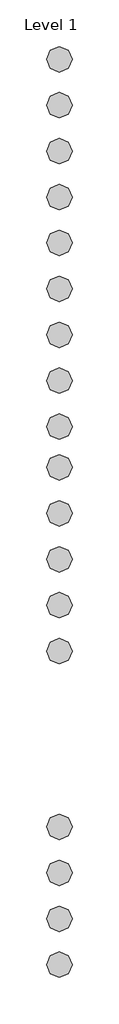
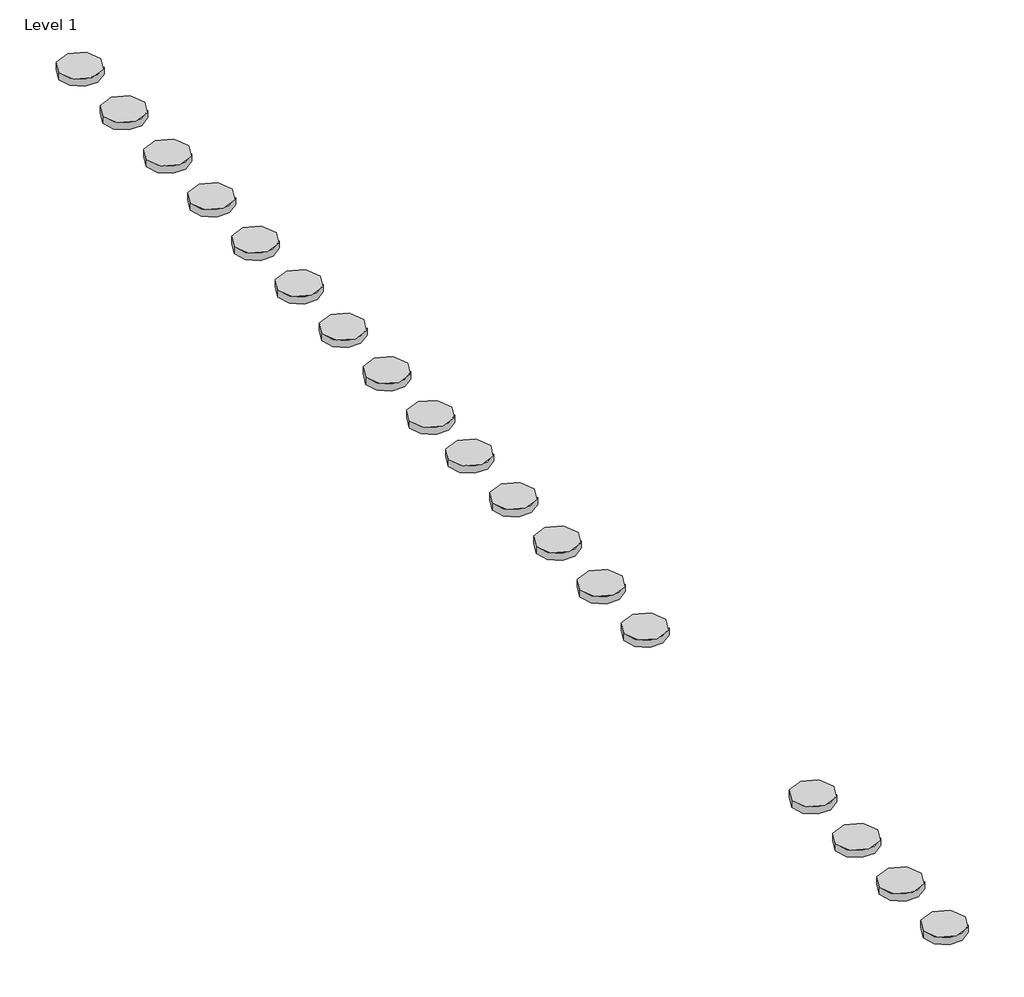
# One storey, incomplete: 18 proxies.
"""IFC4 building model written with IfcOpenShell, lengths in millimetres."""

from ifc_helpers import new_model, si_unit, origin, place, context, project, spatial, transform, mapped, element, save
from components import materialmodel_materialmodel_f4343cda

model = new_model("IFC4")

# Units and contexts
model_context = context("Model", 3, world=origin())
ifc_project = project(units=[si_unit("LENGTHUNIT", "METRE", prefix="MILLI")], contexts=[model_context])

# Site, building, storey
site = spatial("IfcSite", under=ifc_project)
building = spatial("IfcBuilding", under=site)
storey = spatial("IfcBuildingStorey", under=building, Name="Level 1", Elevation=0.0)

# Proxies
placement = place(None, origin())
materialmodel_materialmodel_shape = materialmodel_materialmodel_f4343cda(model_context)
element("IfcBuildingElementProxy", 1, Name="MaterialModel : MaterialModel", ObjectType="MaterialModel : MaterialModel", at=placement, inside=storey, context=model_context, shape_type="MappedRepresentation", body=[
    mapped(materialmodel_materialmodel_shape, transform((-5552.1657896, 4174.5048486, 0.0), x_axis=(1.0, 0.0, 0.0), y_axis=(0.0, 1.0, 0.0), z_axis=(0.0, 0.0, 1.0))),
])
element("IfcBuildingElementProxy", 2, Name="MaterialModel : MaterialModel", ObjectType="MaterialModel : MaterialModel", at=placement, inside=storey, context=model_context, shape_type="MappedRepresentation", body=[
    mapped(materialmodel_materialmodel_shape, transform((-5552.1657896, 1165.2505234, 0.0), x_axis=(1.0, 0.0, 0.0), y_axis=(0.0, 1.0, 0.0), z_axis=(0.0, 0.0, 1.0))),
])
element("IfcBuildingElementProxy", 3, Name="MaterialModel : MaterialModel", ObjectType="MaterialModel : MaterialModel", at=placement, inside=storey, context=model_context, shape_type="MappedRepresentation", body=[
    mapped(materialmodel_materialmodel_shape, transform((-5552.1657896, 3994.5048486, 0.0), x_axis=(1.0, 0.0, 0.0), y_axis=(0.0, 1.0, 0.0), z_axis=(0.0, 0.0, 1.0))),
])
element("IfcBuildingElementProxy", 4, Name="MaterialModel : MaterialModel", ObjectType="MaterialModel : MaterialModel", at=placement, inside=storey, context=model_context, shape_type="MappedRepresentation", body=[
    mapped(materialmodel_materialmodel_shape, transform((-5552.1657896, 3814.5048486, 0.0), x_axis=(1.0, 0.0, 0.0), y_axis=(0.0, 1.0, 0.0), z_axis=(0.0, 0.0, 1.0))),
])
element("IfcBuildingElementProxy", 5, Name="MaterialModel : MaterialModel", ObjectType="MaterialModel : MaterialModel", at=placement, inside=storey, context=model_context, shape_type="MappedRepresentation", body=[
    mapped(materialmodel_materialmodel_shape, transform((-5552.1657896, 3634.5048486, 0.0), x_axis=(1.0, 0.0, 0.0), y_axis=(0.0, 1.0, 0.0), z_axis=(0.0, 0.0, 1.0))),
])
element("IfcBuildingElementProxy", 6, Name="MaterialModel : MaterialModel", ObjectType="MaterialModel : MaterialModel", at=placement, inside=storey, context=model_context, shape_type="MappedRepresentation", body=[
    mapped(materialmodel_materialmodel_shape, transform((-5552.1657896, 3454.5048486, 0.0), x_axis=(1.0, 0.0, 0.0), y_axis=(0.0, 1.0, 0.0), z_axis=(0.0, 0.0, 1.0))),
])
element("IfcBuildingElementProxy", 7, Name="MaterialModel : MaterialModel", ObjectType="MaterialModel : MaterialModel", at=placement, inside=storey, context=model_context, shape_type="MappedRepresentation", body=[
    mapped(materialmodel_materialmodel_shape, transform((-5552.1657896, 3274.5048486, 0.0), x_axis=(1.0, 0.0, 0.0), y_axis=(0.0, 1.0, 0.0), z_axis=(0.0, 0.0, 1.0))),
])
element("IfcBuildingElementProxy", 8, Name="MaterialModel : MaterialModel", ObjectType="MaterialModel : MaterialModel", at=placement, inside=storey, context=model_context, shape_type="MappedRepresentation", body=[
    mapped(materialmodel_materialmodel_shape, transform((-5552.1657896, 3094.5048486, 0.0), x_axis=(1.0, 0.0, 0.0), y_axis=(0.0, 1.0, 0.0), z_axis=(0.0, 0.0, 1.0))),
])
element("IfcBuildingElementProxy", 9, Name="MaterialModel : MaterialModel", ObjectType="MaterialModel : MaterialModel", at=placement, inside=storey, context=model_context, shape_type="MappedRepresentation", body=[
    mapped(materialmodel_materialmodel_shape, transform((-5552.1657896, 2914.5048486, 0.0), x_axis=(1.0, 0.0, 0.0), y_axis=(0.0, 1.0, 0.0), z_axis=(0.0, 0.0, 1.0))),
])
element("IfcBuildingElementProxy", 10, Name="MaterialModel : MaterialModel", ObjectType="MaterialModel : MaterialModel", at=placement, inside=storey, context=model_context, shape_type="MappedRepresentation", body=[
    mapped(materialmodel_materialmodel_shape, transform((-5552.1657896, 2734.5048486, 0.0), x_axis=(1.0, 0.0, 0.0), y_axis=(0.0, 1.0, 0.0), z_axis=(0.0, 0.0, 1.0))),
])
element("IfcBuildingElementProxy", 11, Name="MaterialModel : MaterialModel", ObjectType="MaterialModel : MaterialModel", at=placement, inside=storey, context=model_context, shape_type="MappedRepresentation", body=[
    mapped(materialmodel_materialmodel_shape, transform((-5552.1657896, 2214.5048486, 0.0), x_axis=(1.0, 0.0, 0.0), y_axis=(0.0, 1.0, 0.0), z_axis=(0.0, 0.0, 1.0))),
])
element("IfcBuildingElementProxy", 12, Name="MaterialModel : MaterialModel", ObjectType="MaterialModel : MaterialModel", at=placement, inside=storey, context=model_context, shape_type="MappedRepresentation", body=[
    mapped(materialmodel_materialmodel_shape, transform((-5552.1657896, 2034.5048486, 0.0), x_axis=(1.0, 0.0, 0.0), y_axis=(0.0, 1.0, 0.0), z_axis=(0.0, 0.0, 1.0))),
])
element("IfcBuildingElementProxy", 13, Name="MaterialModel : MaterialModel", ObjectType="MaterialModel : MaterialModel", at=placement, inside=storey, context=model_context, shape_type="MappedRepresentation", body=[
    mapped(materialmodel_materialmodel_shape, transform((-5552.1657896, 1854.5048486, 0.0), x_axis=(1.0, 0.0, 0.0), y_axis=(0.0, 1.0, 0.0), z_axis=(0.0, 0.0, 1.0))),
])
element("IfcBuildingElementProxy", 14, Name="MaterialModel : MaterialModel", ObjectType="MaterialModel : MaterialModel", at=placement, inside=storey, context=model_context, shape_type="MappedRepresentation", body=[
    mapped(materialmodel_materialmodel_shape, transform((-5552.1657896, 985.2505234, 0.0), x_axis=(1.0, 0.0, 0.0), y_axis=(0.0, 1.0, 0.0), z_axis=(0.0, 0.0, 1.0))),
])
element("IfcBuildingElementProxy", 15, Name="MaterialModel : MaterialModel", ObjectType="MaterialModel : MaterialModel", at=placement, inside=storey, context=model_context, shape_type="MappedRepresentation", body=[
    mapped(materialmodel_materialmodel_shape, transform((-5552.1657896, 805.2505234, 0.0), x_axis=(1.0, 0.0, 0.0), y_axis=(0.0, 1.0, 0.0), z_axis=(0.0, 0.0, 1.0))),
])
element("IfcBuildingElementProxy", 16, Name="MaterialModel : MaterialModel", ObjectType="MaterialModel : MaterialModel", at=placement, inside=storey, context=model_context, shape_type="MappedRepresentation", body=[
    mapped(materialmodel_materialmodel_shape, transform((-5552.1657896, 625.2505234, 0.0), x_axis=(1.0, 0.0, 0.0), y_axis=(0.0, 1.0, 0.0), z_axis=(0.0, 0.0, 1.0))),
])
element("IfcBuildingElementProxy", 17, Name="MaterialModel : MaterialModel", ObjectType="MaterialModel : MaterialModel", at=placement, inside=storey, context=model_context, shape_type="MappedRepresentation", body=[
    mapped(materialmodel_materialmodel_shape, transform((-5552.1657896, 2574.5048486, 0.0), x_axis=(1.0, 0.0, 0.0), y_axis=(0.0, 1.0, 0.0), z_axis=(0.0, 0.0, 1.0))),
])
element("IfcBuildingElementProxy", 18, Name="MaterialModel : MaterialModel", ObjectType="MaterialModel : MaterialModel", at=placement, inside=storey, context=model_context, shape_type="MappedRepresentation", body=[
    mapped(materialmodel_materialmodel_shape, transform((-5552.1657896, 2394.5048486, 0.0), x_axis=(1.0, 0.0, 0.0), y_axis=(0.0, 1.0, 0.0), z_axis=(0.0, 0.0, 1.0))),
])

save(model, "model.ifc")
